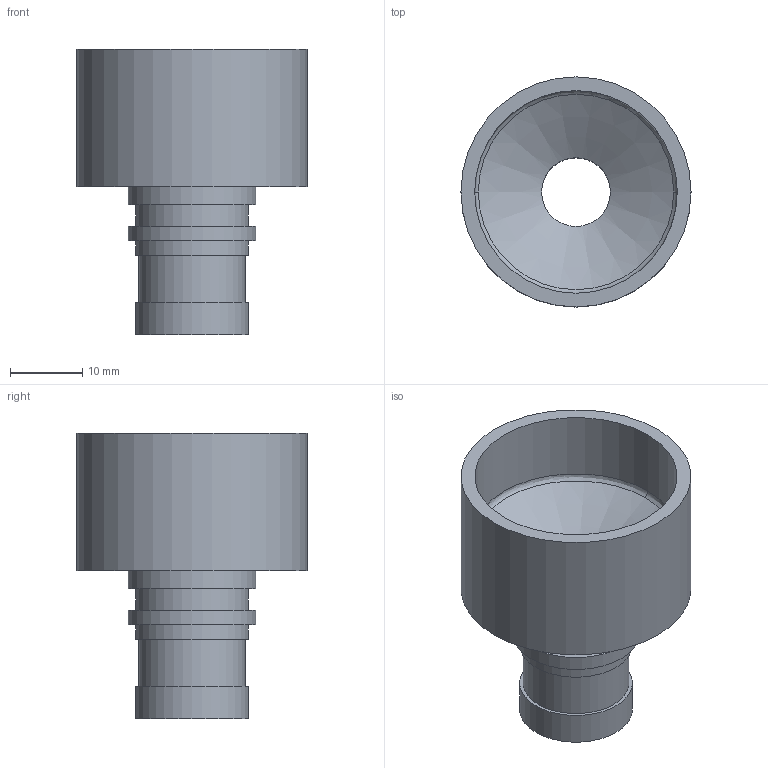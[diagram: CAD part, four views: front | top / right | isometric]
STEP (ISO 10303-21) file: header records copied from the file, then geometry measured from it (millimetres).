
FILE_DESCRIPTION (( 'STEP AP203' ), '1' );
FILE_NAME ('70-12.7R31.8-PH.STEP', '2013-09-19T10:47:13', ( '' ), ( '' ), 'SwSTEP 2.0', 'SolidWorks 2012', '' );
FILE_SCHEMA (( 'CONFIG_CONTROL_DESIGN' ));
Length unit declared in the file: millimetre
Products named in the file (1): 70-12.7R31.8-PH
Bounding box: 31.8 x 31.8 x 39.5 mm (x, y, z)
Volume: 9224.9 mm3; surface area: 6254.4 mm2
Topology: 1 solids, 1 shells, 22 faces, 36 edges, 23 vertices
Faces by surface type: cylinder 10, plane 9, bspline 2, cone 1
Full cylindrical faces by diameter (mm): 9.5 x1, 12.65 x1, 14.65 x1, 15.6 x3, 17.6 x2, 28 x1, 31.8 x1
Entity records: 567 total; most frequent: CARTESIAN_POINT 107, DIRECTION 88, ORIENTED_EDGE 50, AXIS2_PLACEMENT_3D 44, EDGE_LOOP 42, FACE_OUTER_BOUND 32, EDGE_CURVE 25, CIRCLE 23
